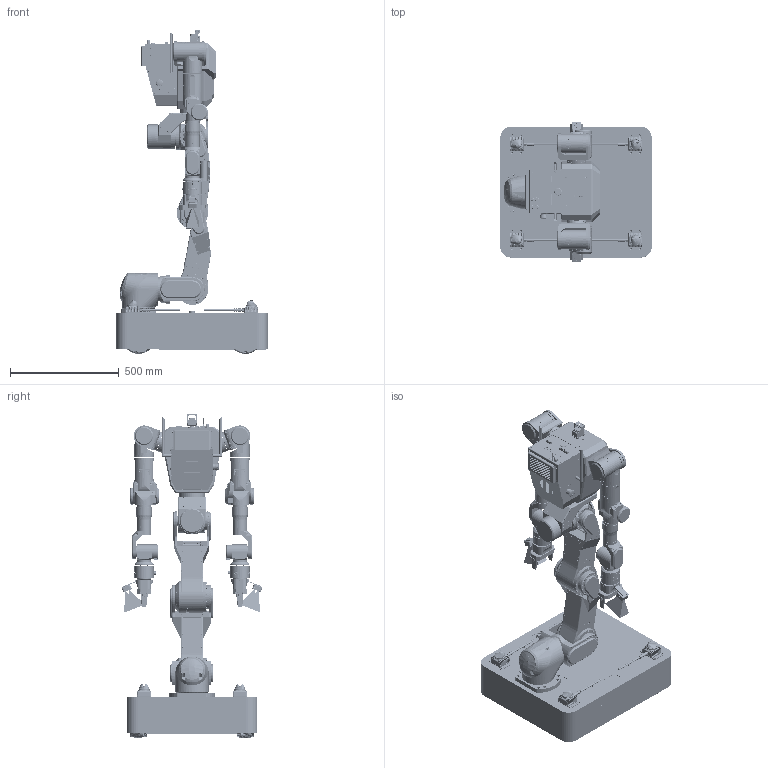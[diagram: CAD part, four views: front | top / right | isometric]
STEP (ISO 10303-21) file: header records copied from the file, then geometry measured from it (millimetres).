
FILE_DESCRIPTION(/* description */ (''),/* implementation_level */ '2;1');
FILE_NAME(/* name */ 'RB-Y1_v1.1_3D_Fast Grip_MW_KCs_260107.stp',/* time_stamp */ '2026-01-08T15:56:14+09:00',/* author */ ('KiWook.H'),/* organization */ (''),/* preprocessor_version */ 'ST-DEVELOPER v20',/* originating_system */ 'Autodesk Inventor 2025',/* authorisation */ '');
FILE_SCHEMA (('AUTOMOTIVE_DESIGN { 1 0 10303 214 3 1 1 }'));
Products named in the file (22): RB-Y1_v1.1_3D_Fast Grip_MW_KCs_260107; 000_Base_Macanum_v1.1; 001_AR_v1.1; 002_AP_v1.1; 003_KN_v1.1; 004_HP_v1.1; 005_HR_v1.1; 006_HY_v1.1; 007_SP_R_v1.1; 008_SR_R_v1.1; 009_SY_R_v1.1; 010_EL_R_v1.1; 011_WY1_R_v1.1; 012_WP_R_v1.1; 014_SP_L_v1.1; 015_SR_L_v1.1; 016_SY_L_v1.1; 017_EL_L_v1.1; 018_WY1_L_v1.1; 019_WP_L_v1.1; 020_FTsensor TF_v1.1; 021_Gripper_Fast_v1.1
Assembly tree (23 placements, depth 2):
  RB-Y1_v1.1_3D_Fast Grip_MW_KCs_260107
    000_Base_Macanum_v1.1
    001_AR_v1.1
    002_AP_v1.1
    003_KN_v1.1
    004_HP_v1.1
    005_HR_v1.1
    006_HY_v1.1
    007_SP_R_v1.1
    008_SR_R_v1.1
    009_SY_R_v1.1
    010_EL_R_v1.1
    011_WY1_R_v1.1
    012_WP_R_v1.1
    014_SP_L_v1.1
    015_SR_L_v1.1
    016_SY_L_v1.1
    017_EL_L_v1.1
    018_WY1_L_v1.1
    019_WP_L_v1.1
    020_FTsensor TF_v1.1  x2
    021_Gripper_Fast_v1.1  x2
Bounding box: 695 x 646.07 x 1486.2 mm (x, y, z)
Volume: 95342962.4 mm3; surface area: 7079533.1 mm2
Topology: 1669 solids, 2429 shells, 31652 faces, 80176 edges, 51780 vertices
Faces by surface type: plane 14320, cylinder 9264, cone 2569, torus 2192, bspline 1670, sphere 1637
Full cylindrical faces by diameter (mm): 0.6 x48, 0.7 x16, 0.9 x48, 1 x51, 1.03 x16, 1.5 x10, 1.567 x16, 1.6 x145, 1.7 x10, 2 x50, 2.013 x4, 2.05 x16, 2.2 x4, 2.4 x16, 2.459 x89, 2.5 x67, 2.6 x4, 2.693 x10, 2.8 x22, 2.9 x2, 3 x197, 3.1 x10, 3.2 x30, 3.242 x23, 3.3 x24, 3.4 x24, 3.5 x4, 3.571 x4, 3.8 x4, 3.9 x1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
Entity records: 1223560 total; most frequent: CARTESIAN_POINT 485674, DIRECTION 149194, ORIENTED_EDGE 146224, EDGE_CURVE 73128, AXIS2_PLACEMENT_3D 57686, VERTEX_POINT 49674, EDGE_LOOP 34166, LINE 33822
